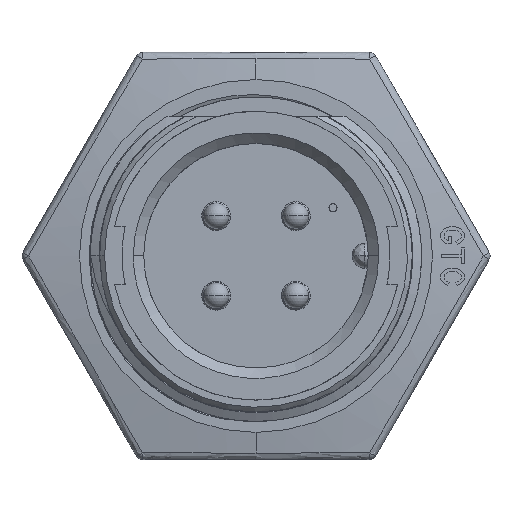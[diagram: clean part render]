
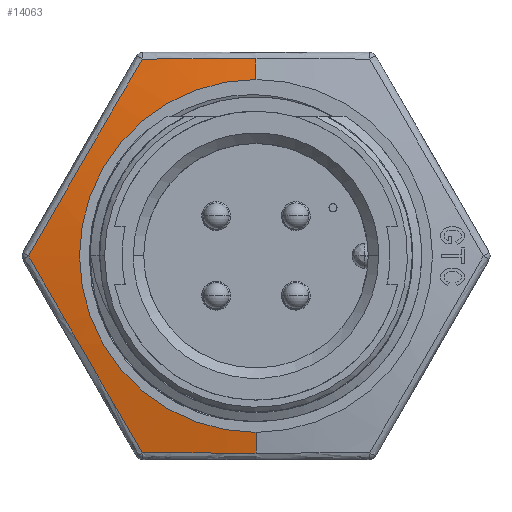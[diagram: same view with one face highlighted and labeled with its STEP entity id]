
A CAD part, top view. The second image highlights one B-rep face of the part: STEP entity #14063.
In plain terms, the highlighted conical face has half-angle 80 degrees and reference radius 11 mm.
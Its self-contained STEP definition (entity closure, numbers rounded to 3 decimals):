
#190 = CARTESIAN_POINT ( 'NONE',  ( -7.419, 23.564, 5.273 ) ) ;
#232 = EDGE_CURVE ( 'NONE', #26210, #1569, #1000, .T. ) ;
#480 = EDGE_CURVE ( 'NONE', #10055, #12218, #44068, .T. ) ;
#792 = ORIENTED_EDGE ( 'NONE', *, *, #15691, .T. ) ;
#1000 = LINE ( 'NONE', #20574, #34752 ) ;
#1569 = VERTEX_POINT ( 'NONE', #3724 ) ;
#2134 = CARTESIAN_POINT ( 'NONE',  ( -16.877, 3.086, 5.273 ) ) ;
#2488 = VERTEX_POINT ( 'NONE', #14935 ) ;
#3192 = DIRECTION ( 'NONE',  ( 0., 1., 0. ) ) ;
#3401 = CARTESIAN_POINT ( 'NONE',  ( -7.419, 11.277, 5.5 ) ) ;
#3657 = FACE_OUTER_BOUND ( 'NONE', #42364, .T. ) ;
#3724 = CARTESIAN_POINT ( 'NONE',  ( -7.419, -1.01, 5.273 ) ) ;
#5734 = CARTESIAN_POINT ( 'NONE',  ( -7.419, 0.277, 5.5 ) ) ;
#6403 = CARTESIAN_POINT ( 'NONE',  ( -20.42, 13.322, 5.147 ) ) ;
#7298 = VERTEX_POINT ( 'NONE', #28000 ) ;
#10032 = CARTESIAN_POINT ( 'NONE',  ( -15.69, 1.041, 5.147 ) ) ;
#10055 = VERTEX_POINT ( 'NONE', #190 ) ;
#10112 = CIRCLE ( 'NONE', #17398, 11. ) ;
#10372 = B_SPLINE_CURVE_WITH_KNOTS ( 'NONE', 3,
 ( #21717, #25266, #21464, #2134, #10032, #45043 ),
 .UNSPECIFIED., .F., .F.,
 ( 4, 2, 4 ),
 ( 0., 0.007, 0.014 ),
 .UNSPECIFIED. ) ;
#12218 = VERTEX_POINT ( 'NONE', #39465 ) ;
#12467 = CARTESIAN_POINT ( 'NONE',  ( -14.506, 23.552, 4.94 ) ) ;
#12961 = CARTESIAN_POINT ( 'NONE',  ( -14.506, -0.998, 4.94 ) ) ;
#13858 = LINE ( 'NONE', #29316, #36020 ) ;
#14040 = CARTESIAN_POINT ( 'NONE',  ( -21.593, 11.277, 4.94 ) ) ;
#14063 = ADVANCED_FACE ( 'NONE', ( #3657 ), #14128, .T. ) ;
#14128 = CONICAL_SURFACE ( 'NONE', #40024, 11., 1.396 ) ;
#14667 = CARTESIAN_POINT ( 'NONE',  ( -12.148, -1.004, 5.147 ) ) ;
#14935 = CARTESIAN_POINT ( 'NONE',  ( -14.506, -0.998, 4.94 ) ) ;
#15091 = B_SPLINE_CURVE_WITH_KNOTS ( 'NONE', 3,
 ( #32824, #49076, #21672, #37130, #6403, #14040 ),
 .UNSPECIFIED., .F., .F.,
 ( 4, 2, 4 ),
 ( 0., 0.007, 0.014 ),
 .UNSPECIFIED. ) ;
#15691 = EDGE_CURVE ( 'NONE', #12218, #37354, #15091, .T. ) ;
#16289 = ORIENTED_EDGE ( 'NONE', *, *, #480, .T. ) ;
#17398 = AXIS2_PLACEMENT_3D ( 'NONE', #46098, #17959, #3192 ) ;
#17959 = DIRECTION ( 'NONE',  ( 0., 0., -1. ) ) ;
#19167 = DIRECTION ( 'NONE',  ( 0., 0., -1. ) ) ;
#19478 = CARTESIAN_POINT ( 'NONE',  ( -9.787, -1.01, 5.273 ) ) ;
#19710 = EDGE_CURVE ( 'NONE', #26210, #7298, #10112, .T. ) ;
#20574 = CARTESIAN_POINT ( 'NONE',  ( -7.419, 0.277, 5.5 ) ) ;
#21464 = CARTESIAN_POINT ( 'NONE',  ( -19.244, 7.185, 5.273 ) ) ;
#21672 = CARTESIAN_POINT ( 'NONE',  ( -16.875, 19.472, 5.273 ) ) ;
#21717 = CARTESIAN_POINT ( 'NONE',  ( -21.593, 11.277, 4.94 ) ) ;
#24141 = DIRECTION ( 'NONE',  ( 0., -0.985, -0.174 ) ) ;
#24199 = ORIENTED_EDGE ( 'NONE', *, *, #46999, .T. ) ;
#25266 = CARTESIAN_POINT ( 'NONE',  ( -20.42, 9.233, 5.147 ) ) ;
#26210 = VERTEX_POINT ( 'NONE', #5734 ) ;
#27105 = ORIENTED_EDGE ( 'NONE', *, *, #19710, .T. ) ;
#28000 = CARTESIAN_POINT ( 'NONE',  ( -7.419, 22.277, 5.5 ) ) ;
#29316 = CARTESIAN_POINT ( 'NONE',  ( -7.419, 22.277, 5.5 ) ) ;
#31729 = CARTESIAN_POINT ( 'NONE',  ( -7.419, 23.564, 5.273 ) ) ;
#32789 = ORIENTED_EDGE ( 'NONE', *, *, #232, .F. ) ;
#32824 = CARTESIAN_POINT ( 'NONE',  ( -14.506, 23.552, 4.94 ) ) ;
#32888 = DIRECTION ( 'NONE',  ( 0., 0.985, -0.174 ) ) ;
#34635 = DIRECTION ( 'NONE',  ( 0., 1., 0. ) ) ;
#34752 = VECTOR ( 'NONE', #24141, 1000. ) ;
#36020 = VECTOR ( 'NONE', #32888, 1000. ) ;
#37130 = CARTESIAN_POINT ( 'NONE',  ( -19.242, 15.373, 5.273 ) ) ;
#37354 = VERTEX_POINT ( 'NONE', #49707 ) ;
#39176 = B_SPLINE_CURVE_WITH_KNOTS ( 'NONE', 3,
 ( #12961, #14667, #19478, #42305 ),
 .UNSPECIFIED., .F., .F.,
 ( 4, 4 ),
 ( 0., 0.007 ),
 .UNSPECIFIED. ) ;
#39465 = CARTESIAN_POINT ( 'NONE',  ( -14.506, 23.552, 4.94 ) ) ;
#40024 = AXIS2_PLACEMENT_3D ( 'NONE', #3401, #19167, #34635 ) ;
#40194 = ORIENTED_EDGE ( 'NONE', *, *, #44504, .T. ) ;
#42305 = CARTESIAN_POINT ( 'NONE',  ( -7.419, -1.01, 5.273 ) ) ;
#42364 = EDGE_LOOP ( 'NONE', ( #32789, #27105, #24199, #16289, #792, #43102, #40194 ) ) ;
#43102 = ORIENTED_EDGE ( 'NONE', *, *, #47707, .T. ) ;
#44068 = B_SPLINE_CURVE_WITH_KNOTS ( 'NONE', 3,
 ( #31729, #47224, #44160, #12467 ),
 .UNSPECIFIED., .F., .F.,
 ( 4, 4 ),
 ( 0.007, 0.014 ),
 .UNSPECIFIED. ) ;
#44160 = CARTESIAN_POINT ( 'NONE',  ( -12.149, 23.559, 5.147 ) ) ;
#44504 = EDGE_CURVE ( 'NONE', #2488, #1569, #39176, .T. ) ;
#45043 = CARTESIAN_POINT ( 'NONE',  ( -14.506, -0.998, 4.94 ) ) ;
#46098 = CARTESIAN_POINT ( 'NONE',  ( -7.419, 11.277, 5.5 ) ) ;
#46999 = EDGE_CURVE ( 'NONE', #7298, #10055, #13858, .T. ) ;
#47224 = CARTESIAN_POINT ( 'NONE',  ( -9.785, 23.564, 5.273 ) ) ;
#47707 = EDGE_CURVE ( 'NONE', #37354, #2488, #10372, .T. ) ;
#49076 = CARTESIAN_POINT ( 'NONE',  ( -15.69, 21.514, 5.147 ) ) ;
#49707 = CARTESIAN_POINT ( 'NONE',  ( -21.593, 11.277, 4.94 ) ) ;
